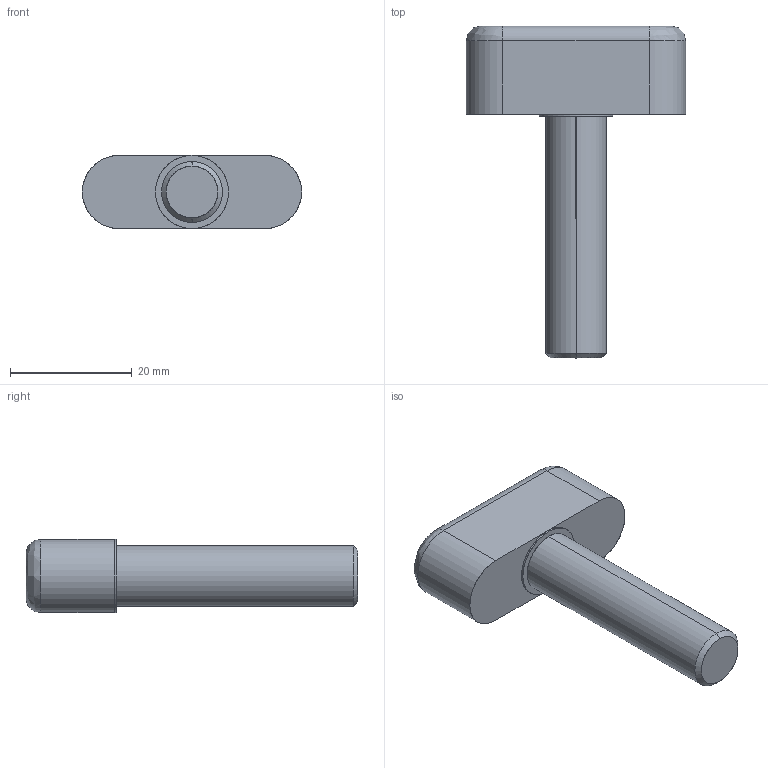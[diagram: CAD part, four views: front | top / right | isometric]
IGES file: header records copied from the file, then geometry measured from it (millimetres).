
Start section: SolidWorks IGES file using analytic representation for surfaces
Global section: file name: C:\Documents and Settings\IanO.IANOHOME\My Documents\Wix and Auto CAD Work\CAD Models\Parametric Models\Wix Models\3738\3738_IGES\3738.W103.igs; native system: SolidWorks 2009; preprocessor: SolidWorks 2009; author: IanO; date: 091209.215853; units: millimetre
Bounding box: 36 x 54.5 x 12 mm (x, y, z)
Surface area: 3198 mm2 (no closed solid volume)
Topology: 0 solids, 0 shells, 19 faces, 256 edges, 256 vertices
Faces by surface type: revolution 10, bspline 9
